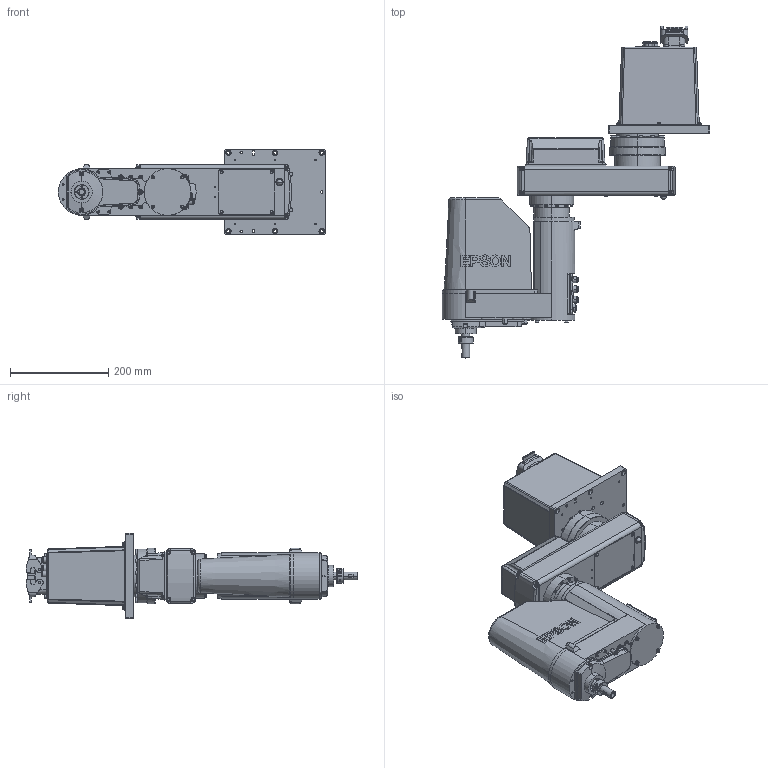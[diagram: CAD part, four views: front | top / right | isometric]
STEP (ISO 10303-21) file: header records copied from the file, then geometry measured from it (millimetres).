
FILE_DESCRIPTION (( 'STEP AP214' ), '1' );
FILE_NAME ('RS4-x351S.STEP', '2025-11-21T18:50:13', ( '' ), ( '' ), 'SwSTEP 2.0', 'SolidWorks 2020', '' );
FILE_SCHEMA (( 'AUTOMOTIVE_DESIGN' ));
Length unit declared in the file: millimetre
Products named in the file (5): RS4-C351S-J2_ARM; RS4-C351S-Z_AXIS_SHAFT; RS4-C351S-J1_ARM; RS4-C351S-BOX; RS4-x351S
Assembly tree (4 placements, depth 2):
  RS4-x351S
    RS4-C351S-BOX
    RS4-C351S-J1_ARM
    RS4-C351S-J2_ARM
    RS4-C351S-Z_AXIS_SHAFT
Bounding box: 544.5 x 676.4 x 175 mm (x, y, z)
Volume: 4898166.4 mm3; surface area: 683799.3 mm2
Topology: 2 solids, 5 shells, 2880 faces, 7377 edges, 4871 vertices
Faces by surface type: plane 1351, cylinder 1016, cone 257, torus 218, bspline 24, sphere 14
Entity records: 133591 total; most frequent: CARTESIAN_POINT 52144, ORIENTED_EDGE 14696, DIRECTION 9800, EDGE_CURVE 7348, VERTEX_POINT 4870, B_SPLINE_CURVE_WITH_KNOTS 4327, AXIS2_PLACEMENT_3D 3915, EDGE_LOOP 3298
